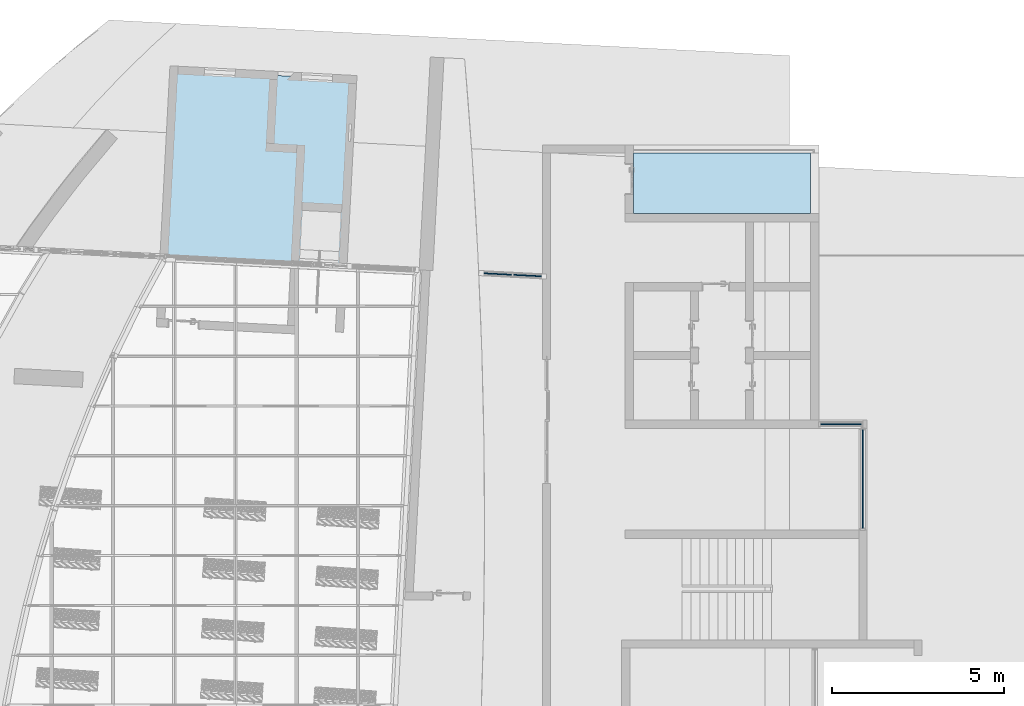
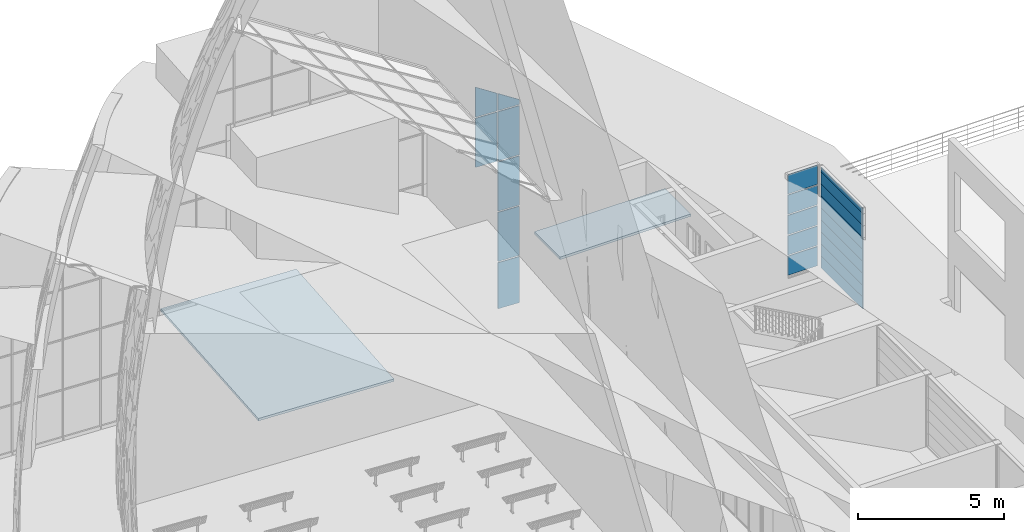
# One storey, part 45 of 82: 21 plates, 2 slabs, 4 elements without a shape of their own.
"""IFC2X3 building model written with IfcOpenShell, lengths in millimetres."""

from ifc_helpers import new_model, entity, si_unit, converted_unit, derived_unit, direction, frame, frame_2d, origin, origin_2d_with_axis, place, context, subcontext, project, spatial, polyline, rectangle, outline, extrude, source, transform, mapped, material, layer, layer_set, layer_usage, type_object, type_shapes, element, aggregate, save


model = new_model("IFC2X3")

# Units and contexts
model_context = context("Model", 3, precision=0.01, world=origin(), true_north=direction((6.12303176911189e-17, 1.0)))
body_context = subcontext(model_context, "Body", "Model", "MODEL_VIEW")
ifc_project = project(units=[si_unit("LENGTHUNIT", "METRE", prefix="MILLI"), si_unit("AREAUNIT", "SQUARE_METRE"), si_unit("VOLUMEUNIT", "CUBIC_METRE"), converted_unit("PLANEANGLEUNIT", "DEGREE", entity("IfcRatioMeasure", 0.0174532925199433), si_unit("PLANEANGLEUNIT", "RADIAN"), dimensions=[0, 0, 0, 0, 0, 0, 0]), si_unit("MASSUNIT", "GRAM", prefix="KILO"), derived_unit("MASSDENSITYUNIT", [(si_unit("MASSUNIT", "GRAM", prefix="KILO"), 1), (si_unit("LENGTHUNIT", "METRE"), -3)]), si_unit("TIMEUNIT", "SECOND"), si_unit("FREQUENCYUNIT", "HERTZ"), si_unit("THERMODYNAMICTEMPERATUREUNIT", "DEGREE_CELSIUS"), derived_unit("THERMALTRANSMITTANCEUNIT", [(si_unit("MASSUNIT", "GRAM", prefix="KILO"), 1), (si_unit("THERMODYNAMICTEMPERATUREUNIT", "KELVIN"), -1), (si_unit("TIMEUNIT", "SECOND"), -3)]), derived_unit("VOLUMETRICFLOWRATEUNIT", [(si_unit("LENGTHUNIT", "METRE"), 3), (si_unit("TIMEUNIT", "SECOND"), -1)]), si_unit("ELECTRICCURRENTUNIT", "AMPERE"), si_unit("ELECTRICVOLTAGEUNIT", "VOLT"), si_unit("POWERUNIT", "WATT"), si_unit("FORCEUNIT", "NEWTON", prefix="KILO"), si_unit("ILLUMINANCEUNIT", "LUX"), si_unit("LUMINOUSFLUXUNIT", "LUMEN"), si_unit("LUMINOUSINTENSITYUNIT", "CANDELA"), derived_unit("USERDEFINED", [(si_unit("MASSUNIT", "GRAM", prefix="KILO"), -1), (si_unit("LENGTHUNIT", "METRE"), -2), (si_unit("TIMEUNIT", "SECOND"), 3), (si_unit("LUMINOUSFLUXUNIT", "LUMEN"), 1)]), derived_unit("LINEARVELOCITYUNIT", [(si_unit("LENGTHUNIT", "METRE"), 1), (si_unit("TIMEUNIT", "SECOND"), -1)]), si_unit("PRESSUREUNIT", "PASCAL"), derived_unit("USERDEFINED", [(si_unit("LENGTHUNIT", "METRE"), -2), (si_unit("MASSUNIT", "GRAM", prefix="KILO"), 1), (si_unit("TIMEUNIT", "SECOND"), -2)])], contexts=[model_context])

# Site, building, storey
site_placement = place(None, origin())
site = spatial("IfcSite", under=ifc_project, at=site_placement, Name="表面", CompositionType="ELEMENT")
building_placement = place(site_placement, origin())
building = spatial("IfcBuilding", under=site, at=building_placement, CompositionType="ELEMENT")
storey_placement = place(building_placement, origin())
storey = spatial("IfcBuildingStorey", under=building, at=storey_placement, Name="1F", CompositionType="ELEMENT", Elevation=0.0)

# Curtain wall, plates
curtain_wall_type_1 = type_object("IfcCurtainWallType", Name="幕墙系统:1450 x 2100mm", PredefinedType="NOTDEFINED")
curtain_wall_1_placement = place(storey_placement, origin())
curtain_wall_1 = element("IfcCurtainWall", 1, at=curtain_wall_1_placement, inside=storey, type_object=curtain_wall_type_1, Name="幕墙系统:1450 x 2100mm", ObjectType="幕墙系统:1450 x 2100mm")
ifc_material_1 = material(Name="<Unnamed>")
ifc_layer_1 = layer(ifc_material_1, 30.0)
ifc_layer_set_1 = layer_set([ifc_layer_1], Name="幕墙系统:1450 x 2100mm")
ifc_layer_usage_1 = layer_usage(ifc_layer_set_1, "AXIS3", "POSITIVE", 0.0)
plate_type_1 = type_object("IfcPlateType", Name="玻璃", PredefinedType="CURTAIN_PANEL", material=ifc_layer_set_1)
shared_shape_1 = source(origin(), body_context, "Body", "SweptSolid", [
    extrude(rectangle(XDim=30.0, YDim=813.114110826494, at=frame_2d((0.0, -2.8421709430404e-13), x_axis=(1.0, 0.0))), frame((0.0, 0.0, 0.0), z_axis=(0.0, 0.0, 1.0), x_axis=(0.0, 1.0, 0.0)), (0.0, 0.0, 1.0), 1925.0),
])
type_shapes(plate_type_1, [shared_shape_1])
plate_1_placement = place(curtain_wall_1_placement, frame((-14986.0442259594, 2004.80224497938, 150.0), z_axis=(0.0, 0.0, 1.0), x_axis=(0.998629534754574, -0.0523359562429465, 0.0)))
plate_1 = element("IfcPlate", 2, at=plate_1_placement, type_object=plate_type_1, material=ifc_layer_usage_1, Name="系统嵌板:玻璃", ObjectType="玻璃", context=body_context, shape_type="MappedRepresentation", body=[
    mapped(shared_shape_1, transform((0.0, 0.0, 0.0), scale=1.0)),
])
ifc_layer_usage_2 = layer_usage(ifc_layer_set_1, "AXIS3", "POSITIVE", 0.0)
plate_type_2 = type_object("IfcPlateType", Name="玻璃", PredefinedType="CURTAIN_PANEL", material=ifc_layer_set_1)
shared_shape_2 = source(origin(), body_context, "Body", "SweptSolid", [
    extrude(rectangle(XDim=30.0, YDim=813.114110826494, at=frame_2d((0.0, -2.8421709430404e-13), x_axis=(1.0, 0.0))), frame((0.0, 0.0, 0.0), z_axis=(0.0, 0.0, 1.0), x_axis=(0.0, 1.0, 0.0)), (0.0, 0.0, 1.0), 2050.0),
])
type_shapes(plate_type_2, [shared_shape_2])
plate_2_placement = place(curtain_wall_1_placement, frame((-14986.0442259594, 2004.80224497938, 2125.0), z_axis=(0.0, 0.0, 1.0), x_axis=(0.998629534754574, -0.0523359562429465, 0.0)))
plate_2 = element("IfcPlate", 3, at=plate_2_placement, type_object=plate_type_2, material=ifc_layer_usage_2, Name="系统嵌板:玻璃", ObjectType="玻璃", context=body_context, shape_type="MappedRepresentation", body=[
    mapped(shared_shape_2, transform((0.0, 0.0, 0.0), scale=1.0)),
])
ifc_layer_usage_3 = layer_usage(ifc_layer_set_1, "AXIS3", "POSITIVE", 0.0)
plate_3_placement = place(curtain_wall_1_placement, frame((-14986.0442259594, 2004.80224497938, 4225.0), z_axis=(0.0, 0.0, 1.0), x_axis=(0.998629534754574, -0.0523359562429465, 0.0)))
plate_3 = element("IfcPlate", 4, at=plate_3_placement, type_object=plate_type_2, material=ifc_layer_usage_3, Name="系统嵌板:玻璃", ObjectType="玻璃", context=body_context, shape_type="MappedRepresentation", body=[
    mapped(shared_shape_2, transform((0.0, 0.0, 0.0), scale=1.0)),
])
ifc_layer_usage_4 = layer_usage(ifc_layer_set_1, "AXIS3", "POSITIVE", 0.0)
plate_4_placement = place(curtain_wall_1_placement, frame((-15847.9754688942, 2049.97414731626, 6325.0), z_axis=(0.0, 0.0, 1.0), x_axis=(0.998629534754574, -0.0523359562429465, 0.0)))
plate_4 = element("IfcPlate", 5, at=plate_4_placement, type_object=plate_type_2, material=ifc_layer_usage_4, Name="系统嵌板:玻璃", ObjectType="玻璃", context=body_context, shape_type="MappedRepresentation", body=[
    mapped(shared_shape_2, transform((0.0, 0.0, 0.0), scale=1.0)),
])
ifc_layer_usage_5 = layer_usage(ifc_layer_set_1, "AXIS3", "POSITIVE", 0.0)
plate_5_placement = place(curtain_wall_1_placement, frame((-14986.0442259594, 2004.80224497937, 6325.0), z_axis=(0.0, 0.0, 1.0), x_axis=(0.998629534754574, -0.0523359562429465, 0.0)))
plate_5 = element("IfcPlate", 6, at=plate_5_placement, type_object=plate_type_2, material=ifc_layer_usage_5, Name="系统嵌板:玻璃", ObjectType="玻璃", context=body_context, shape_type="MappedRepresentation", body=[
    mapped(shared_shape_2, transform((0.0, 0.0, 0.0), scale=1.0)),
])
ifc_layer_usage_6 = layer_usage(ifc_layer_set_1, "AXIS3", "POSITIVE", 0.0)
plate_type_3 = type_object("IfcPlateType", Name="玻璃", PredefinedType="CURTAIN_PANEL", material=ifc_layer_set_1)
shared_shape_3 = source(origin(), body_context, "Body", "SweptSolid", [
    extrude(outline(polyline([(-498.651183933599, -406.557055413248), (752.348067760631, -406.557055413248), (244.954300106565, 406.557055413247), (-498.651183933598, 406.557055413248), (-498.651183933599, -406.557055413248)])), frame((0.0, -15.0, 498.651183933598), z_axis=(0.0, 1.0, 0.0), x_axis=(0.0, 0.0, 1.0)), (0.0, 0.0, 1.0), 30.0),
])
type_shapes(plate_type_3, [shared_shape_3])
plate_6_placement = place(curtain_wall_1_placement, frame((-15847.9754688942, 2049.97414731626, 8425.0), z_axis=(0.0, 0.0, 1.0), x_axis=(0.998629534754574, -0.0523359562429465, 0.0)))
plate_6 = element("IfcPlate", 7, at=plate_6_placement, type_object=plate_type_3, material=ifc_layer_usage_6, Name="系统嵌板:玻璃", ObjectType="玻璃", context=body_context, shape_type="MappedRepresentation", body=[
    mapped(shared_shape_3, transform((0.0, 0.0, 0.0), scale=1.0)),
])
ifc_layer_usage_7 = layer_usage(ifc_layer_set_1, "AXIS3", "POSITIVE", 0.0)
plate_type_4 = type_object("IfcPlateType", Name="玻璃", PredefinedType="CURTAIN_PANEL", material=ifc_layer_set_1)
shared_shape_4 = source(origin(), body_context, "Body", "SweptSolid", [
    extrude(outline(polyline([(-229.353975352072, -406.557055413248), (483.050859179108, -406.557055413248), (-24.3429084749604, 406.557055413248), (-229.353975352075, 406.557055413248), (-229.353975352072, -406.557055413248)])), frame((0.0, -15.0, 229.353975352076), z_axis=(0.0, 1.0, 0.0), x_axis=(0.0, 0.0, 1.0)), (0.0, 0.0, 1.0), 30.0),
])
type_shapes(plate_type_4, [shared_shape_4])
plate_7_placement = place(curtain_wall_1_placement, frame((-14986.0442259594, 2004.80224497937, 8425.0), z_axis=(0.0, 0.0, 1.0), x_axis=(0.998629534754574, -0.0523359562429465, 0.0)))
plate_7 = element("IfcPlate", 8, at=plate_7_placement, type_object=plate_type_4, material=ifc_layer_usage_7, Name="系统嵌板:玻璃", ObjectType="玻璃", context=body_context, shape_type="MappedRepresentation", body=[
    mapped(shared_shape_4, transform((0.0, 0.0, 0.0), scale=1.0)),
])
aggregate(curtain_wall_1, [plate_1, plate_2, plate_3, plate_4, plate_5, plate_6, plate_7])

curtain_wall_type_2 = type_object("IfcCurtainWallType", Name="幕墙:幕墙 1", PredefinedType="NOTDEFINED")
curtain_wall_2_placement = place(storey_placement, origin())
curtain_wall_2 = element("IfcCurtainWall", 9, at=curtain_wall_2_placement, inside=storey, type_object=curtain_wall_type_2, Name="幕墙:幕墙 1", ObjectType="幕墙:幕墙 1")
ifc_layer_usage_8 = layer_usage(ifc_layer_set_1, "AXIS3", "POSITIVE", 0.0)
plate_type_5 = type_object("IfcPlateType", Name="玻璃", PredefinedType="CURTAIN_PANEL", material=ifc_layer_set_1)
shared_shape_5 = source(origin(), body_context, "Body", "SweptSolid", [
    extrude(rectangle(XDim=30.0, YDim=2860.0, at=origin_2d_with_axis()), frame((0.0, 0.0, 0.0), z_axis=(0.0, 0.0, 1.0), x_axis=(0.0, 1.0, 0.0)), (0.0, 0.0, 1.0), 500.000000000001),
])
type_shapes(plate_type_5, [shared_shape_5])
plate_8_placement = place(curtain_wall_2_placement, frame((-5230.24991264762, -3916.868426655, 1050.0), z_axis=(0.0, 0.0, 1.0), x_axis=(0.0, -1.0, 0.0)))
plate_8 = element("IfcPlate", 10, at=plate_8_placement, type_object=plate_type_5, material=ifc_layer_usage_8, Name="系统嵌板:玻璃", ObjectType="玻璃", context=body_context, shape_type="MappedRepresentation", body=[
    mapped(shared_shape_5, transform((0.0, 0.0, 0.0), scale=1.0)),
])
ifc_layer_usage_9 = layer_usage(ifc_layer_set_1, "AXIS3", "POSITIVE", 0.0)
plate_9_placement = place(curtain_wall_2_placement, frame((-5230.24991264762, -3916.868426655, 1550.0), z_axis=(0.0, 0.0, 1.0), x_axis=(0.0, -1.0, 0.0)))
plate_9 = element("IfcPlate", 11, at=plate_9_placement, type_object=plate_type_5, material=ifc_layer_usage_9, Name="系统嵌板:玻璃", ObjectType="玻璃", context=body_context, shape_type="MappedRepresentation", body=[
    mapped(shared_shape_5, transform((0.0, 0.0, 0.0), scale=1.0)),
])
ifc_layer_usage_10 = layer_usage(ifc_layer_set_1, "AXIS3", "POSITIVE", 0.0)
plate_10_placement = place(curtain_wall_2_placement, frame((-5230.24991264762, -3916.868426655, 2050.0), z_axis=(0.0, 0.0, 1.0), x_axis=(0.0, -1.0, 0.0)))
plate_10 = element("IfcPlate", 12, at=plate_10_placement, type_object=plate_type_5, material=ifc_layer_usage_10, Name="系统嵌板:玻璃", ObjectType="玻璃", context=body_context, shape_type="MappedRepresentation", body=[
    mapped(shared_shape_5, transform((0.0, 0.0, 0.0), scale=1.0)),
])
ifc_layer_usage_11 = layer_usage(ifc_layer_set_1, "AXIS3", "POSITIVE", 0.0)
plate_11_placement = place(curtain_wall_2_placement, frame((-5230.24991264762, -3916.868426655, 2550.0), z_axis=(0.0, 0.0, 1.0), x_axis=(0.0, -1.0, 0.0)))
plate_11 = element("IfcPlate", 13, at=plate_11_placement, type_object=plate_type_5, material=ifc_layer_usage_11, Name="系统嵌板:玻璃", ObjectType="玻璃", context=body_context, shape_type="MappedRepresentation", body=[
    mapped(shared_shape_5, transform((0.0, 0.0, 0.0), scale=1.0)),
])
ifc_layer_usage_12 = layer_usage(ifc_layer_set_1, "AXIS3", "POSITIVE", 0.0)
plate_12_placement = place(curtain_wall_2_placement, frame((-5230.24991264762, -3916.868426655, 3050.0), z_axis=(0.0, 0.0, 1.0), x_axis=(0.0, -1.0, 0.0)))
plate_12 = element("IfcPlate", 14, at=plate_12_placement, type_object=plate_type_5, material=ifc_layer_usage_12, Name="系统嵌板:玻璃", ObjectType="玻璃", context=body_context, shape_type="MappedRepresentation", body=[
    mapped(shared_shape_5, transform((0.0, 0.0, 0.0), scale=1.0)),
])
ifc_layer_usage_13 = layer_usage(ifc_layer_set_1, "AXIS3", "POSITIVE", 0.0)
plate_13_placement = place(curtain_wall_2_placement, frame((-5230.24991264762, -3916.868426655, 3550.0), z_axis=(0.0, 0.0, 1.0), x_axis=(0.0, -1.0, 0.0)))
plate_13 = element("IfcPlate", 15, at=plate_13_placement, type_object=plate_type_5, material=ifc_layer_usage_13, Name="系统嵌板:玻璃", ObjectType="玻璃", context=body_context, shape_type="MappedRepresentation", body=[
    mapped(shared_shape_5, transform((0.0, 0.0, 0.0), scale=1.0)),
])
ifc_layer_usage_14 = layer_usage(ifc_layer_set_1, "AXIS3", "POSITIVE", 0.0)
plate_14_placement = place(curtain_wall_2_placement, frame((-5230.24991264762, -3916.868426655, 4050.0), z_axis=(0.0, 0.0, 1.0), x_axis=(0.0, -1.0, 0.0)))
plate_14 = element("IfcPlate", 16, at=plate_14_placement, type_object=plate_type_5, material=ifc_layer_usage_14, Name="系统嵌板:玻璃", ObjectType="玻璃", context=body_context, shape_type="MappedRepresentation", body=[
    mapped(shared_shape_5, transform((0.0, 0.0, 0.0), scale=1.0)),
])
ifc_layer_usage_15 = layer_usage(ifc_layer_set_1, "AXIS3", "POSITIVE", 0.0)
plate_15_placement = place(curtain_wall_2_placement, frame((-5230.24991264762, -3916.868426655, 4550.0), z_axis=(0.0, 0.0, 1.0), x_axis=(0.0, -1.0, 0.0)))
plate_15 = element("IfcPlate", 17, at=plate_15_placement, type_object=plate_type_5, material=ifc_layer_usage_15, Name="系统嵌板:玻璃", ObjectType="玻璃", context=body_context, shape_type="MappedRepresentation", body=[
    mapped(shared_shape_5, transform((0.0, 0.0, 0.0), scale=1.0)),
])
ifc_layer_usage_16 = layer_usage(ifc_layer_set_1, "AXIS3", "POSITIVE", 0.0)
plate_type_6 = type_object("IfcPlateType", Name="玻璃", PredefinedType="CURTAIN_PANEL", material=ifc_layer_set_1)
shared_shape_6 = source(origin(), body_context, "Body", "SweptSolid", [
    extrude(rectangle(XDim=30.0, YDim=2860.0, at=origin_2d_with_axis()), frame((0.0, 0.0, 0.0), z_axis=(0.0, 0.0, 1.0), x_axis=(0.0, 1.0, 0.0)), (0.0, 0.0, 1.0), 200.0),
])
type_shapes(plate_type_6, [shared_shape_6])
plate_16_placement = place(curtain_wall_2_placement, frame((-5230.24991264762, -3916.868426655, 5050.0), z_axis=(0.0, 0.0, 1.0), x_axis=(0.0, -1.0, 0.0)))
plate_16 = element("IfcPlate", 18, at=plate_16_placement, type_object=plate_type_6, material=ifc_layer_usage_16, Name="系统嵌板:玻璃", ObjectType="玻璃", context=body_context, shape_type="MappedRepresentation", body=[
    mapped(shared_shape_6, transform((0.0, 0.0, 0.0), scale=1.0)),
])
aggregate(curtain_wall_2, [plate_8, plate_9, plate_10, plate_11, plate_12, plate_13, plate_14, plate_15, plate_16])

curtain_wall_type_3 = type_object("IfcCurtainWallType", Name="幕墙:幕墙 5", PredefinedType="NOTDEFINED")
curtain_wall_3_placement = place(storey_placement, origin())
curtain_wall_3 = element("IfcCurtainWall", 19, at=curtain_wall_3_placement, inside=storey, type_object=curtain_wall_type_3, Name="幕墙:幕墙 5", ObjectType="幕墙:幕墙 5")
ifc_layer_usage_17 = layer_usage(ifc_layer_set_1, "AXIS3", "POSITIVE", 0.0)
plate_type_7 = type_object("IfcPlateType", Name="玻璃", PredefinedType="CURTAIN_PANEL", material=ifc_layer_set_1)
shared_shape_7 = source(origin(), body_context, "Body", "SweptSolid", [
    extrude(rectangle(XDim=30.0, YDim=1180.00000000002, at=frame_2d((0.0, -5.6843418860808e-14), x_axis=(1.0, 0.0))), frame((0.0, 0.0, 0.0), z_axis=(0.0, 0.0, 1.0), x_axis=(0.0, 1.0, 0.0)), (0.0, 0.0, 1.0), 800.0),
])
type_shapes(plate_type_7, [shared_shape_7])
plate_17_placement = place(curtain_wall_3_placement, frame((-5870.24991264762, -2316.86842665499, 1050.0)))
plate_17 = element("IfcPlate", 20, at=plate_17_placement, type_object=plate_type_7, material=ifc_layer_usage_17, Name="系统嵌板:玻璃", ObjectType="玻璃", context=body_context, shape_type="MappedRepresentation", body=[
    mapped(shared_shape_7, transform((0.0, 0.0, 0.0), scale=1.0)),
])
ifc_layer_usage_18 = layer_usage(ifc_layer_set_1, "AXIS3", "POSITIVE", 0.0)
plate_18_placement = place(curtain_wall_3_placement, frame((-5870.24991264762, -2316.86842665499, 1900.0)))
plate_18 = element("IfcPlate", 21, at=plate_18_placement, type_object=plate_type_7, material=ifc_layer_usage_18, Name="系统嵌板:玻璃", ObjectType="玻璃", context=body_context, shape_type="MappedRepresentation", body=[
    mapped(shared_shape_7, transform((0.0, 0.0, 0.0), scale=1.0)),
])
ifc_layer_usage_19 = layer_usage(ifc_layer_set_1, "AXIS3", "POSITIVE", 0.0)
plate_19_placement = place(curtain_wall_3_placement, frame((-5870.24991264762, -2316.86842665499, 2750.0)))
plate_19 = element("IfcPlate", 22, at=plate_19_placement, type_object=plate_type_7, material=ifc_layer_usage_19, Name="系统嵌板:玻璃", ObjectType="玻璃", context=body_context, shape_type="MappedRepresentation", body=[
    mapped(shared_shape_7, transform((0.0, 0.0, 0.0), scale=1.0)),
])
ifc_layer_usage_20 = layer_usage(ifc_layer_set_1, "AXIS3", "POSITIVE", 0.0)
plate_20_placement = place(curtain_wall_3_placement, frame((-5870.24991264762, -2316.86842665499, 3600.0)))
plate_20 = element("IfcPlate", 23, at=plate_20_placement, type_object=plate_type_7, material=ifc_layer_usage_20, Name="系统嵌板:玻璃", ObjectType="玻璃", context=body_context, shape_type="MappedRepresentation", body=[
    mapped(shared_shape_7, transform((0.0, 0.0, 0.0), scale=1.0)),
])
ifc_layer_usage_21 = layer_usage(ifc_layer_set_1, "AXIS3", "POSITIVE", 0.0)
plate_21_placement = place(curtain_wall_3_placement, frame((-5870.24991264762, -2316.86842665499, 4450.0)))
plate_21 = element("IfcPlate", 24, at=plate_21_placement, type_object=plate_type_7, material=ifc_layer_usage_21, Name="系统嵌板:玻璃", ObjectType="玻璃", context=body_context, shape_type="MappedRepresentation", body=[
    mapped(shared_shape_7, transform((0.0, 0.0, 0.0), scale=1.0)),
])
aggregate(curtain_wall_3, [plate_17, plate_18, plate_19, plate_20, plate_21])

# Slab
ifc_material_2 = material(Name="默认楼板")
ifc_layer_2 = layer(ifc_material_2, 100.0)
ifc_layer_set_2 = layer_set([ifc_layer_2], Name="楼板:常规 - 100mm")
ifc_layer_usage_22 = layer_usage(ifc_layer_set_2, "AXIS3", "POSITIVE", 0.0)
slab_1_placement = place(storey_placement, origin())
element("IfcSlab", 25, at=slab_1_placement, inside=storey, material=ifc_layer_usage_22, Name="楼板:常规 - 100mm", ObjectType="楼板:常规 - 100mm", PredefinedType="FLOOR", context=body_context, shape_type="SweptSolid", body=[
    extrude(rectangle(XDim=7360.0, YDim=5210.0, at=frame_2d((4.54747350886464e-13, 4.54747350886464e-12), x_axis=(1.0, 0.0))), frame((-22864.9981928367, 4170.12233095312, 0.0), z_axis=(0.0, 0.0, -1.0), x_axis=(-0.0523359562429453, -0.998629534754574, 0.0)), (0.0, 0.0, 1.0), 100.0),
])

# Roof, slab
roof_placement = place(storey_placement, frame((-11910.2499126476, 3803.131573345, -100.0)))
roof = element("IfcRoof", 26, at=roof_placement, inside=storey, Name="基本屋顶:白屋顶", ObjectType="基本屋顶:白屋顶", ShapeType="NOTDEFINED")
ifc_material_3 = material(Name="白色涂料")
ifc_layer_3 = layer(ifc_material_3, 10.0)
ifc_material_4 = material(Name="默认屋顶")
ifc_layer_4 = layer(ifc_material_4, 80.0)
ifc_layer_5 = layer(ifc_material_3, 10.0)
ifc_layer_set_3 = layer_set([ifc_layer_3, ifc_layer_4, ifc_layer_5], Name="基本屋顶:白屋顶")
slab_2_placement = place(roof_placement, origin())
slab_2 = element("IfcSlab", 27, at=slab_2_placement, material=ifc_layer_set_3, Name="基本屋顶:白屋顶", ObjectType="基本屋顶:白屋顶", PredefinedType="ROOF", context=body_context, shape_type="SweptSolid", body=[
    extrude(rectangle(XDim=5160.0, YDim=1760.00000000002, at=frame_2d((0.0, 2.8421709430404e-13), x_axis=(1.0, 0.0))), frame((2580.0, 880.0, 0.0)), (0.0, 0.0, 1.0), 100.0),
])
aggregate(roof, [slab_2])

save(model, "model.ifc")
